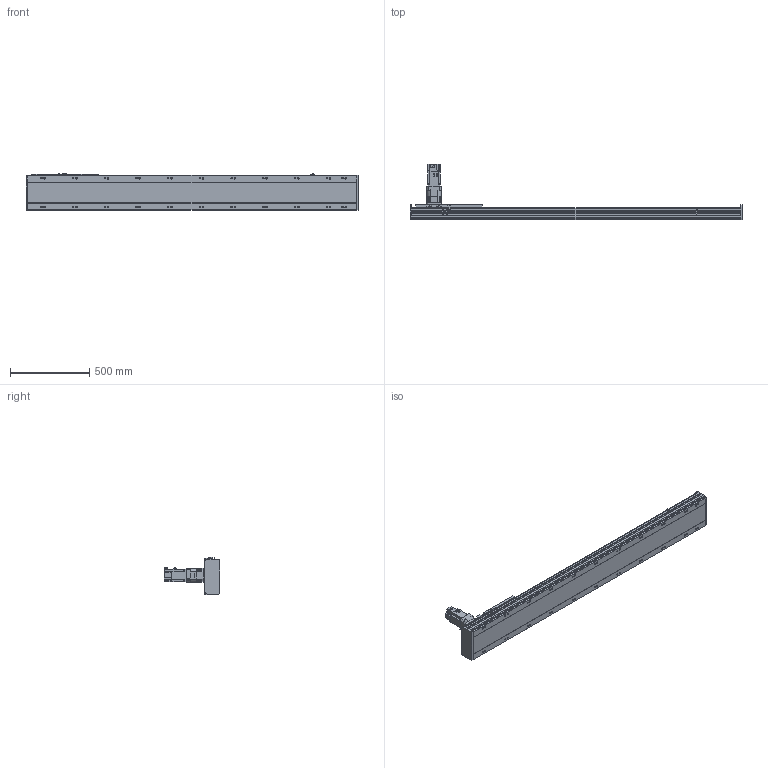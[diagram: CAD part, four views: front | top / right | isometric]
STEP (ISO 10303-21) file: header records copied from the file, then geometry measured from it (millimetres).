
FILE_DESCRIPTION(/* description */ ('STEP AP214'),/* implementation_level */ '2;1');
FILE_NAME(/* name */ 'SHS22A-L13-S1600-BC-T75-C1-N(0)',/* time_stamp */ '2022-06-15T02:26:38+02:00',/* author */ ('License CC BY-ND 4.0'),/* organization */ ('CADENAS'),/* preprocessor_version */ 'ST-DEVELOPER v18.102',/* originating_system */ 'PARTsolutions',/* authorisation */ ' ');
FILE_SCHEMA (('AUTOMOTIVE_DESIGN {1 0 10303 214 3 1 1}'));
Length unit declared in the file: millimetre
Products named in the file (7): SHS22A-L13-S1600-BC-T75-C1-N(0); PSC140-sensor; SHS22A-S1600_body2; T75-p1; SHS22A-S1600_body3; SHS22A-S1600_slider; SHS22A-L13-S1600-BC-T75-C1(0)_body
Assembly tree (13 placements, depth 2):
  SHS22A-L13-S1600-BC-T75-C1-N(0)
    PSC140-sensor  x3
    SHS22A-S1600_body2  x6
    T75-p1
    SHS22A-S1600_body3
    SHS22A-S1600_slider
    SHS22A-L13-S1600-BC-T75-C1(0)_body
Bounding box: 2094 x 350.8 x 238.4 mm (x, y, z)
Volume: 24312552.2 mm3; surface area: 2570635.8 mm2
Topology: 13 solids, 13 shells, 1833 faces, 4723 edges, 3094 vertices
Faces by surface type: plane 1324, cylinder 413, cone 87, torus 9
Full cylindrical faces by diameter (mm): 2.8 x3, 4.2 x2, 4.6 x3, 4.917 x4, 5 x4, 5.6 x24, 6 x31, 6.6 x24, 6.647 x8, 6.8 x9, 7.75 x6, 8 x3, 8.376 x22, 8.5 x22, 10 x4, 11 x4, 12 x24, 14 x22, 22 x1, 24.1 x1, 28 x1, 28.2 x1, 28.8 x1, 48.542 x1, 68 x1, 70 x1, 78 x1, 80 x2
Entity records: 30035 total; most frequent: CARTESIAN_POINT 5339, DIRECTION 5081, ORIENTED_EDGE 4656, EDGE_CURVE 2328, AXIS2_PLACEMENT_3D 1758, VERTEX_POINT 1662, LINE 1565, VECTOR 1565
